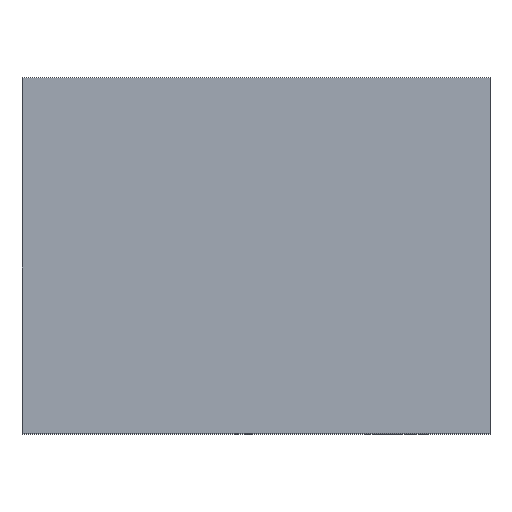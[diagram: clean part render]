
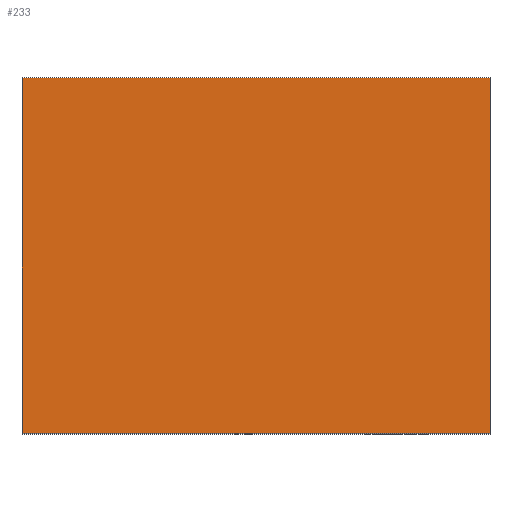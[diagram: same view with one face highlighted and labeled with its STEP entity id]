
A CAD part, top view. The second image highlights one B-rep face of the part: STEP entity #233.
In plain terms, the highlighted planar face has unit normal (0, 0, 1).
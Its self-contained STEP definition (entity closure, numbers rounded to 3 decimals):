
#114=PLANE('',#1468);
#233=ADVANCED_FACE('',(#315),#114,.F.);
#315=FACE_OUTER_BOUND('',#385,.T.);
#385=EDGE_LOOP('',(#830,#831,#832,#833));
#505=LINE('',#2192,#619);
#507=LINE('',#2196,#621);
#508=LINE('',#2198,#622);
#509=LINE('',#2200,#623);
#619=VECTOR('',#1748,1.);
#621=VECTOR('',#1752,1.);
#622=VECTOR('',#1753,1.);
#623=VECTOR('',#1754,1.);
#830=ORIENTED_EDGE('',*,*,#1271,.T.);
#831=ORIENTED_EDGE('',*,*,#1272,.F.);
#832=ORIENTED_EDGE('',*,*,#1273,.F.);
#833=ORIENTED_EDGE('',*,*,#1269,.T.);
#1124=VERTEX_POINT('',#2191);
#1125=VERTEX_POINT('',#2193);
#1126=VERTEX_POINT('',#2197);
#1127=VERTEX_POINT('',#2199);
#1269=EDGE_CURVE('',#1125,#1124,#505,.T.);
#1271=EDGE_CURVE('',#1124,#1126,#507,.T.);
#1272=EDGE_CURVE('',#1127,#1126,#508,.T.);
#1273=EDGE_CURVE('',#1125,#1127,#509,.T.);
#1468=AXIS2_PLACEMENT_3D('',#2201,#1755,#1756);
#1748=DIRECTION('',(0.,-1.,0.));
#1752=DIRECTION('',(1.,0.,0.));
#1753=DIRECTION('',(0.,-1.,0.));
#1754=DIRECTION('',(1.,0.,0.));
#1755=DIRECTION('',(0.,0.,-1.));
#1756=DIRECTION('',(1.,0.,0.));
#2191=CARTESIAN_POINT('',(-25.,-19.,64.));
#2192=CARTESIAN_POINT('',(-25.,19.,64.));
#2193=CARTESIAN_POINT('',(-25.,19.,64.));
#2196=CARTESIAN_POINT('',(-25.,-19.,64.));
#2197=CARTESIAN_POINT('',(25.,-19.,64.));
#2198=CARTESIAN_POINT('',(25.,19.,64.));
#2199=CARTESIAN_POINT('',(25.,19.,64.));
#2200=CARTESIAN_POINT('',(-25.,19.,64.));
#2201=CARTESIAN_POINT('',(-25.,19.,64.));
